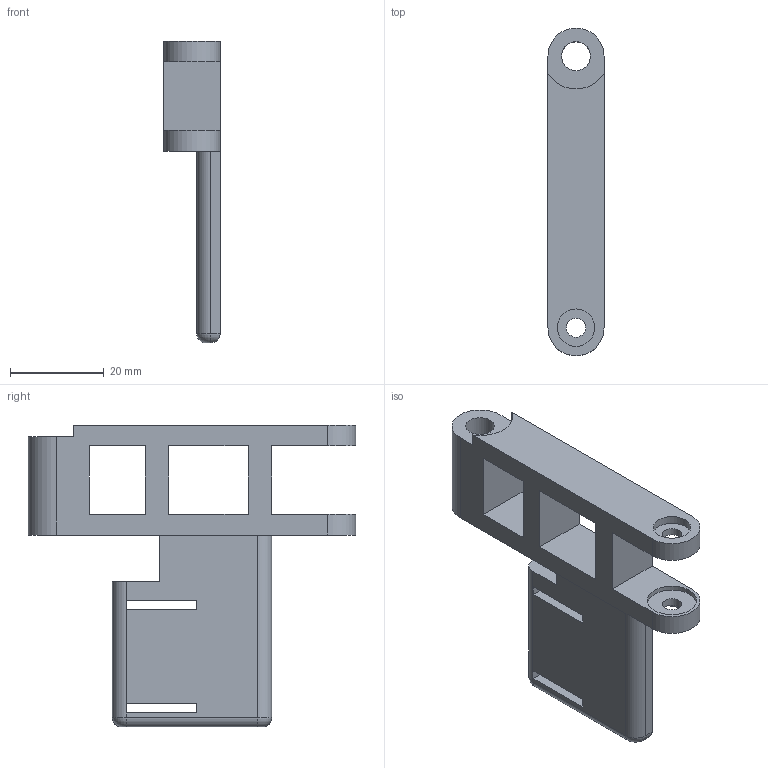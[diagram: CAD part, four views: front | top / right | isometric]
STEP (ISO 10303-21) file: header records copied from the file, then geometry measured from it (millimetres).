
FILE_DESCRIPTION (( 'STEP AP214' ), '1' );
FILE_NAME ('left-hand-right-finger-inner-link.step', '2026-11-14T03:54:57', ( '' ), ( '' ), 'SwSTEP 2.0', 'SolidWorks 2024', '' );
FILE_SCHEMA (( 'AUTOMOTIVE_DESIGN' ));
Length unit declared in the file: millimetre
Products named in the file (1): left-hand-right-finger-inner-link
Bounding box: 12 x 70 x 64.5 mm (x, y, z)
Volume: 15574.8 mm3; surface area: 9346 mm2
Topology: 1 solids, 1 shells, 58 faces, 152 edges, 99 vertices
Faces by surface type: plane 40, cylinder 16, torus 2
Full cylindrical faces by diameter (mm): 4.1 x2, 6.16 x1, 8 x1, 10.5 x2
Entity records: 1764 total; most frequent: CARTESIAN_POINT 304, DIRECTION 289, ORIENTED_EDGE 286, EDGE_CURVE 143, VECTOR 111, LINE 111, VERTEX_POINT 96, AXIS2_PLACEMENT_3D 89
